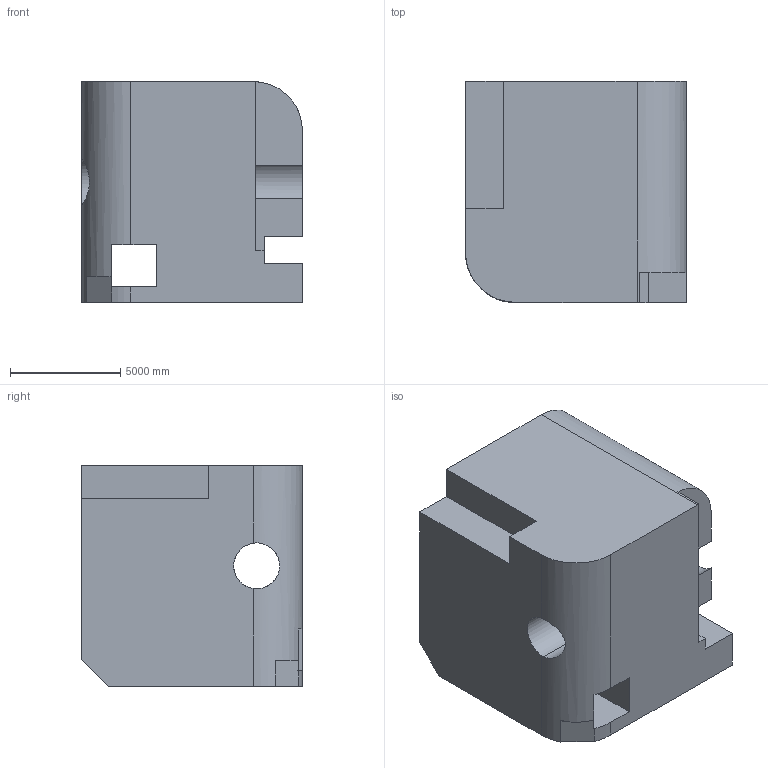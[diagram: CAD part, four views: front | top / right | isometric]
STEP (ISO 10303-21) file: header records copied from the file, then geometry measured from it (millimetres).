
FILE_DESCRIPTION (( 'STEP AP203' ), '1' );
FILE_NAME ('894.STEP', '2022-07-29T14:04:28', ( 'user' ), ( '' ), 'SwSTEP 2.0', 'SolidWorks 2021', '' );
FILE_SCHEMA (( 'CONFIG_CONTROL_DESIGN' ));
Length unit declared in the file: centimetre
Products named in the file (1): 894
Bounding box: 10000 x 10000 x 10000 mm (x, y, z)
Volume: 843818416543.5 mm3; surface area: 714714373.3 mm2
Topology: 1 solids, 1 shells, 29 faces, 93 edges, 62 vertices
Faces by surface type: plane 24, cylinder 5
Entity records: 1241 total; most frequent: CARTESIAN_POINT 326, ORIENTED_EDGE 186, DIRECTION 164, EDGE_CURVE 93, LINE 76, VECTOR 76, VERTEX_POINT 62, AXIS2_PLACEMENT_3D 44
